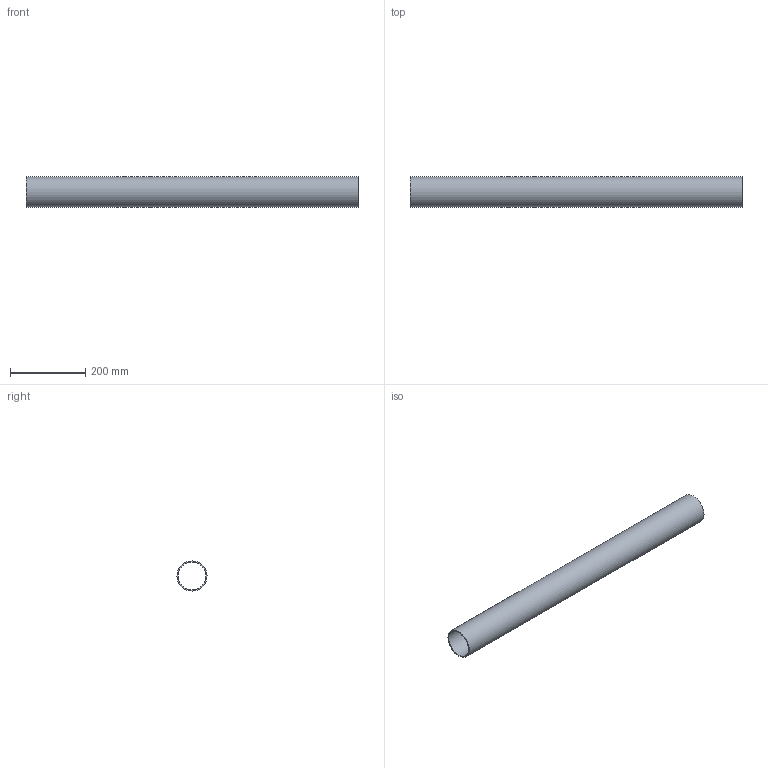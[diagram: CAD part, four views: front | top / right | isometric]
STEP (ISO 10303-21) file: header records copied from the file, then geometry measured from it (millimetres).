
FILE_DESCRIPTION(/* description */ (''),/* implementation_level */ '2;1');
FILE_NAME(/* name */ '035_tubo_dist.stp',/* time_stamp */ '2020-01-08T14:30:24+01:00',/* author */ (''),/* organization */ (''),/* preprocessor_version */ 'ST-DEVELOPER v16.7',/* originating_system */ 'SIEMENS PLM Software NX 12.0',/* authorisation */ '');
FILE_SCHEMA (('AUTOMOTIVE_DESIGN { 1 0 10303 214 3 1 1 1 }'));
Length unit declared in the file: millimetre
Products named in the file (1): bez2C70411Cqczk
Bounding box: 882 x 80 x 80 mm (x, y, z)
Volume: 640074.4 mm3; surface area: 428167.7 mm2
Topology: 1 solids, 1 shells, 4 faces, 6 edges, 4 vertices
Faces by surface type: plane 2, cylinder 2
Full cylindrical faces by diameter (mm): 74 x1, 80 x1
Entity records: 120 total; most frequent: DIRECTION 18, CARTESIAN_POINT 13, AXIS2_PLACEMENT_3D 9, FACE_BOUND 8, EDGE_LOOP 8, ORIENTED_EDGE 8, ADVANCED_FACE 4, VERTEX_POINT 4
